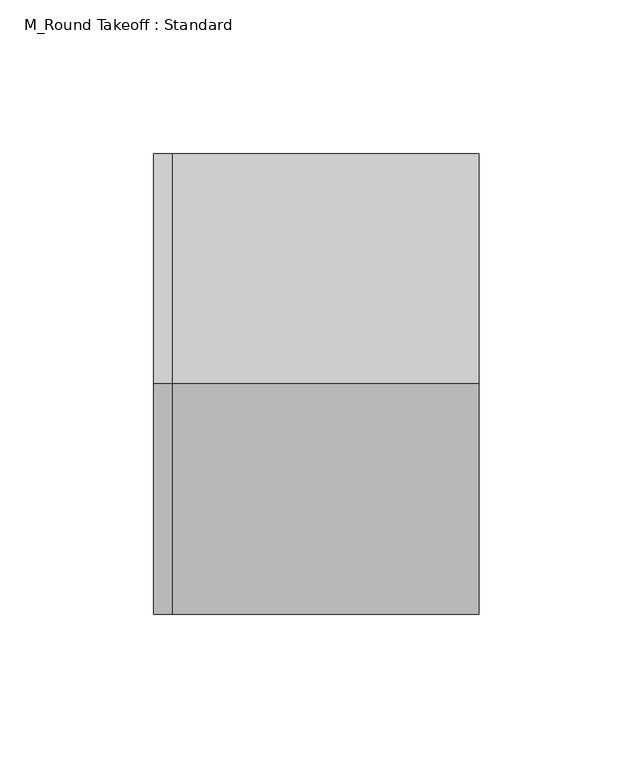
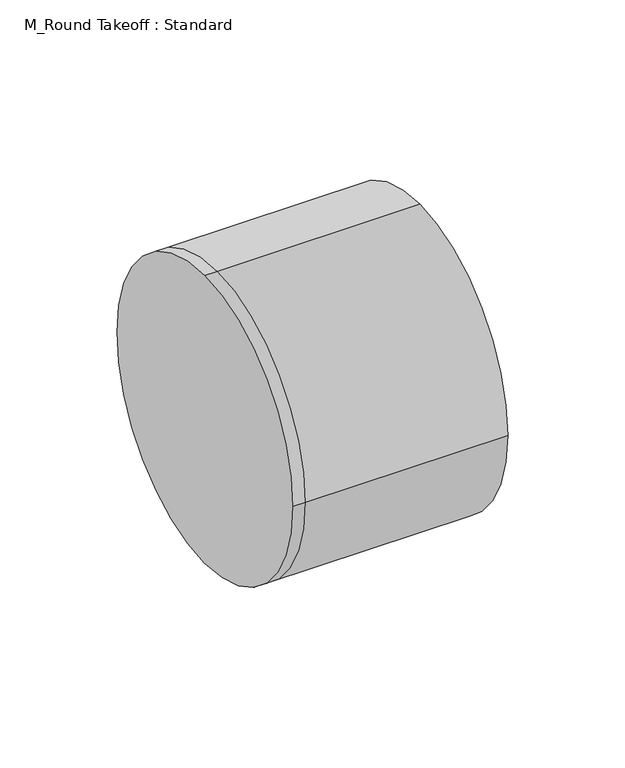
"""IFC4 building model written with IfcOpenShell, lengths in millimetres: duct fitting geometry, M_Round Takeoff : Standard."""

from ifc_helpers import new_model, si_unit, frame, origin, place, context, project, spatial, circle_curve, source, transform, mapped, element, save
from ifc_brep_helpers import plane_surface, cylinder_surface, advanced_brep


def m_round_takeoff_standard_d02f3bf7(model_context):
    return source(origin(), model_context, "Body", "AdvancedBrep", [
        advanced_brep(
        [(-6.096, 0.0, 75.0), (-6.096, 75.0, 0.0), (-6.096, 0.0, -75.0), (-6.096, -75.0, 0.0), (0.0, -75.0, 0.0), (0.0, 0.0, 75.0), (0.0, 0.0, -75.0), (0.0, 75.0, 0.0), (100.0, 0.0, 75.0), (100.0, -75.0, 0.0), (100.0, 0.0, -75.0), (100.0, 75.0, 0.0)],
        [
            (0, 1, circle_curve(frame((-6.096, 0.0, 0.0), z_axis=(-1.0, 0.0, 0.0), x_axis=(0.0, -1.0, 0.0)), 75.0)),
            (1, 2, circle_curve(frame((-6.096, 0.0, 0.0), z_axis=(-1.0, 0.0, 0.0), x_axis=(0.0, -1.0, 0.0)), 75.0)),
            (2, 3, circle_curve(frame((-6.096, 0.0, 0.0), z_axis=(-1.0, 0.0, 0.0), x_axis=(0.0, -1.0, 0.0)), 75.0)),
            (3, 0, circle_curve(frame((-6.096, 0.0, 0.0), z_axis=(-1.0, 0.0, 0.0), x_axis=(0.0, -1.0, 0.0)), 75.0)),
            (3, 4),
            (4, 5, circle_curve(frame((0.0, 0.0, 0.0), z_axis=(-1.0, 0.0, 0.0), x_axis=(0.0, -1.0, 0.0)), 75.0)),
            (5, 0),
            (2, 6),
            (6, 4, circle_curve(frame((0.0, 0.0, 0.0), z_axis=(-1.0, 0.0, 0.0), x_axis=(0.0, -1.0, 0.0)), 75.0)),
            (1, 7),
            (7, 6, circle_curve(frame((0.0, 0.0, 0.0), z_axis=(-1.0, 0.0, 0.0), x_axis=(0.0, -1.0, 0.0)), 75.0)),
            (5, 7, circle_curve(frame((0.0, 0.0, 0.0), z_axis=(-1.0, 0.0, 0.0), x_axis=(0.0, -1.0, 0.0)), 75.0)),
            (8, 9, circle_curve(frame((100.0, 0.0, 0.0), z_axis=(1.0, 0.0, 0.0), x_axis=(0.0, -1.0, 0.0)), 75.0)),
            (9, 10, circle_curve(frame((100.0, 0.0, 0.0), z_axis=(1.0, 0.0, 0.0), x_axis=(0.0, -1.0, 0.0)), 75.0)),
            (10, 11, circle_curve(frame((100.0, 0.0, 0.0), z_axis=(1.0, 0.0, 0.0), x_axis=(0.0, -1.0, 0.0)), 75.0)),
            (11, 8, circle_curve(frame((100.0, 0.0, 0.0), z_axis=(1.0, 0.0, 0.0), x_axis=(0.0, -1.0, 0.0)), 75.0)),
            (8, 5),
            (4, 9),
            (6, 10),
            (7, 11),
        ],
        [
            plane_surface(frame((-6.096, 0.0, 0.0), z_axis=(-1.0, 0.0, 0.0), x_axis=(0.0, 0.0, 1.0))),
            cylinder_surface(frame((-6.096, 0.0, 0.0), z_axis=(-1.0, 0.0, 0.0), x_axis=(0.0, -1.0, 0.0)), 75.0),
            plane_surface(frame((100.0, 0.0, 0.0), z_axis=(1.0, 0.0, 0.0), x_axis=(0.0, 0.0, 1.0))),
            cylinder_surface(frame((0.0, 0.0, 0.0), z_axis=(-1.0, 0.0, 0.0), x_axis=(0.0, -1.0, 0.0)), 75.0),
        ],
        [
            (0, [[1, 2, 3, 4]]),
            (1, [[5, 6, 7, -4]]),
            (1, [[8, 9, -5, -3]]),
            (1, [[10, 11, -8, -2]]),
            (1, [[-7, 12, -10, -1]]),
            (2, [[13, 14, 15, 16]]),
            (3, [[17, -6, 18, -13]]),
            (3, [[-18, -9, 19, -14]]),
            (3, [[-19, -11, 20, -15]]),
            (3, [[-20, -12, -17, -16]]),
        ],
    ),
        advanced_brep(
        [(100.0, 0.0, 75.0), (100.0, -75.0, 0.0), (100.0, 0.0, -75.0), (100.0, 75.0, 0.0), (0.0, 0.0, 75.0), (0.0, -75.0, 0.0), (0.0, 0.0, -75.0), (0.0, 75.0, 0.0), (-6.096, 0.0, 75.0), (-6.096, 75.0, 0.0), (-6.096, 0.0, -75.0), (-6.096, -75.0, 0.0)],
        [
            (0, 1, circle_curve(frame((100.0, 0.0, 0.0), z_axis=(1.0, 0.0, 0.0), x_axis=(0.0, -1.0, 0.0)), 75.0)),
            (1, 2, circle_curve(frame((100.0, 0.0, 0.0), z_axis=(1.0, 0.0, 0.0), x_axis=(0.0, -1.0, 0.0)), 75.0)),
            (2, 3, circle_curve(frame((100.0, 0.0, 0.0), z_axis=(1.0, 0.0, 0.0), x_axis=(0.0, -1.0, 0.0)), 75.0)),
            (3, 0, circle_curve(frame((100.0, 0.0, 0.0), z_axis=(1.0, 0.0, 0.0), x_axis=(0.0, -1.0, 0.0)), 75.0)),
            (0, 4),
            (4, 5, circle_curve(frame((0.0, 0.0, 0.0), z_axis=(1.0, 0.0, 0.0), x_axis=(0.0, -1.0, 0.0)), 75.0)),
            (5, 1),
            (5, 6, circle_curve(frame((0.0, 0.0, 0.0), z_axis=(1.0, 0.0, 0.0), x_axis=(0.0, -1.0, 0.0)), 75.0)),
            (6, 2),
            (6, 7, circle_curve(frame((0.0, 0.0, 0.0), z_axis=(1.0, 0.0, 0.0), x_axis=(0.0, -1.0, 0.0)), 75.0)),
            (7, 3),
            (7, 4, circle_curve(frame((0.0, 0.0, 0.0), z_axis=(1.0, 0.0, 0.0), x_axis=(0.0, -1.0, 0.0)), 75.0)),
            (8, 9, circle_curve(frame((-6.096, 0.0, 0.0), z_axis=(-1.0, 0.0, 0.0), x_axis=(0.0, -1.0, 0.0)), 75.0)),
            (9, 10, circle_curve(frame((-6.096, 0.0, 0.0), z_axis=(-1.0, 0.0, 0.0), x_axis=(0.0, -1.0, 0.0)), 75.0)),
            (10, 11, circle_curve(frame((-6.096, 0.0, 0.0), z_axis=(-1.0, 0.0, 0.0), x_axis=(0.0, -1.0, 0.0)), 75.0)),
            (11, 8, circle_curve(frame((-6.096, 0.0, 0.0), z_axis=(-1.0, 0.0, 0.0), x_axis=(0.0, -1.0, 0.0)), 75.0)),
            (11, 5),
            (4, 8),
            (10, 6),
            (9, 7),
        ],
        [
            plane_surface(frame((100.0, 0.0, 0.0), z_axis=(1.0, 0.0, 0.0), x_axis=(0.0, 0.0, 1.0))),
            cylinder_surface(frame((0.0, 0.0, 0.0), z_axis=(-1.0, 0.0, 0.0), x_axis=(0.0, -1.0, 0.0)), 75.0),
            plane_surface(frame((-6.096, 0.0, 0.0), z_axis=(-1.0, 0.0, 0.0), x_axis=(0.0, 0.0, 1.0))),
            cylinder_surface(frame((-6.096, 0.0, 0.0), z_axis=(-1.0, 0.0, 0.0), x_axis=(0.0, -1.0, 0.0)), 75.0),
        ],
        [
            (0, [[1, 2, 3, 4]]),
            (1, [[5, 6, 7, -1]]),
            (1, [[-7, 8, 9, -2]]),
            (1, [[-9, 10, 11, -3]]),
            (1, [[-11, 12, -5, -4]]),
            (2, [[13, 14, 15, 16]]),
            (3, [[17, -6, 18, -16]]),
            (3, [[19, -8, -17, -15]]),
            (3, [[20, -10, -19, -14]]),
            (3, [[-18, -12, -20, -13]]),
        ],
    ),
        advanced_brep(
        [(-6.096, 0.0, 75.0), (-6.096, 75.0, 0.0), (-6.096, 0.0, -75.0), (-6.096, -75.0, 0.0), (0.0, -75.0, 0.0), (0.0, 0.0, 75.0), (0.0, 0.0, -75.0), (0.0, 75.0, 0.0), (100.0, 0.0, 75.0), (100.0, -75.0, 0.0), (100.0, 0.0, -75.0), (100.0, 75.0, 0.0)],
        [
            (0, 1, circle_curve(frame((-6.096, 0.0, 0.0), z_axis=(-1.0, 0.0, 0.0), x_axis=(0.0, -1.0, 0.0)), 75.0)),
            (1, 2, circle_curve(frame((-6.096, 0.0, 0.0), z_axis=(-1.0, 0.0, 0.0), x_axis=(0.0, -1.0, 0.0)), 75.0)),
            (2, 3, circle_curve(frame((-6.096, 0.0, 0.0), z_axis=(-1.0, 0.0, 0.0), x_axis=(0.0, -1.0, 0.0)), 75.0)),
            (3, 0, circle_curve(frame((-6.096, 0.0, 0.0), z_axis=(-1.0, 0.0, 0.0), x_axis=(0.0, -1.0, 0.0)), 75.0)),
            (3, 4),
            (4, 5, circle_curve(frame((0.0, 0.0, 0.0), z_axis=(-1.0, 0.0, 0.0), x_axis=(0.0, -1.0, 0.0)), 75.0)),
            (5, 0),
            (2, 6),
            (6, 4, circle_curve(frame((0.0, 0.0, 0.0), z_axis=(-1.0, 0.0, 0.0), x_axis=(0.0, -1.0, 0.0)), 75.0)),
            (1, 7),
            (7, 6, circle_curve(frame((0.0, 0.0, 0.0), z_axis=(-1.0, 0.0, 0.0), x_axis=(0.0, -1.0, 0.0)), 75.0)),
            (5, 7, circle_curve(frame((0.0, 0.0, 0.0), z_axis=(-1.0, 0.0, 0.0), x_axis=(0.0, -1.0, 0.0)), 75.0)),
            (8, 9, circle_curve(frame((100.0, 0.0, 0.0), z_axis=(1.0, 0.0, 0.0), x_axis=(0.0, -1.0, 0.0)), 75.0)),
            (9, 10, circle_curve(frame((100.0, 0.0, 0.0), z_axis=(1.0, 0.0, 0.0), x_axis=(0.0, -1.0, 0.0)), 75.0)),
            (10, 11, circle_curve(frame((100.0, 0.0, 0.0), z_axis=(1.0, 0.0, 0.0), x_axis=(0.0, -1.0, 0.0)), 75.0)),
            (11, 8, circle_curve(frame((100.0, 0.0, 0.0), z_axis=(1.0, 0.0, 0.0), x_axis=(0.0, -1.0, 0.0)), 75.0)),
            (8, 5),
            (4, 9),
            (6, 10),
            (7, 11),
        ],
        [
            plane_surface(frame((-6.096, 0.0, 0.0), z_axis=(-1.0, 0.0, 0.0), x_axis=(0.0, 0.0, 1.0))),
            cylinder_surface(frame((-6.096, 0.0, 0.0), z_axis=(-1.0, 0.0, 0.0), x_axis=(0.0, -1.0, 0.0)), 75.0),
            plane_surface(frame((100.0, 0.0, 0.0), z_axis=(1.0, 0.0, 0.0), x_axis=(0.0, 0.0, 1.0))),
            cylinder_surface(frame((0.0, 0.0, 0.0), z_axis=(-1.0, 0.0, 0.0), x_axis=(0.0, -1.0, 0.0)), 75.0),
        ],
        [
            (0, [[1, 2, 3, 4]]),
            (1, [[5, 6, 7, -4]]),
            (1, [[8, 9, -5, -3]]),
            (1, [[10, 11, -8, -2]]),
            (1, [[-7, 12, -10, -1]]),
            (2, [[13, 14, 15, 16]]),
            (3, [[17, -6, 18, -13]]),
            (3, [[-18, -9, 19, -14]]),
            (3, [[-19, -11, 20, -15]]),
            (3, [[-20, -12, -17, -16]]),
        ],
    ),
    ])


if __name__ == "__main__":
    model = new_model("IFC4")
    model_context = context("Model", 3, world=origin())
    ifc_project = project(units=[si_unit("LENGTHUNIT", "METRE", prefix="MILLI")], contexts=[model_context])
    site = spatial("IfcSite", under=ifc_project)
    building = spatial("IfcBuilding", under=site)
    placement = place(None, origin())
    m_round_takeoff_standard_shape = m_round_takeoff_standard_d02f3bf7(model_context)
    element("IfcDuctFitting", 1, ObjectType="M_Round Takeoff : Standard", at=placement, inside=building, context=model_context, shape_type="MappedRepresentation", body=[
        mapped(m_round_takeoff_standard_shape, transform((0.0, 0.0, 0.0), x_axis=(1.0, 0.0, 0.0), y_axis=(0.0, 1.0, 0.0), z_axis=(0.0, 0.0, 1.0))),
    ])
    save(model, "model.ifc")
